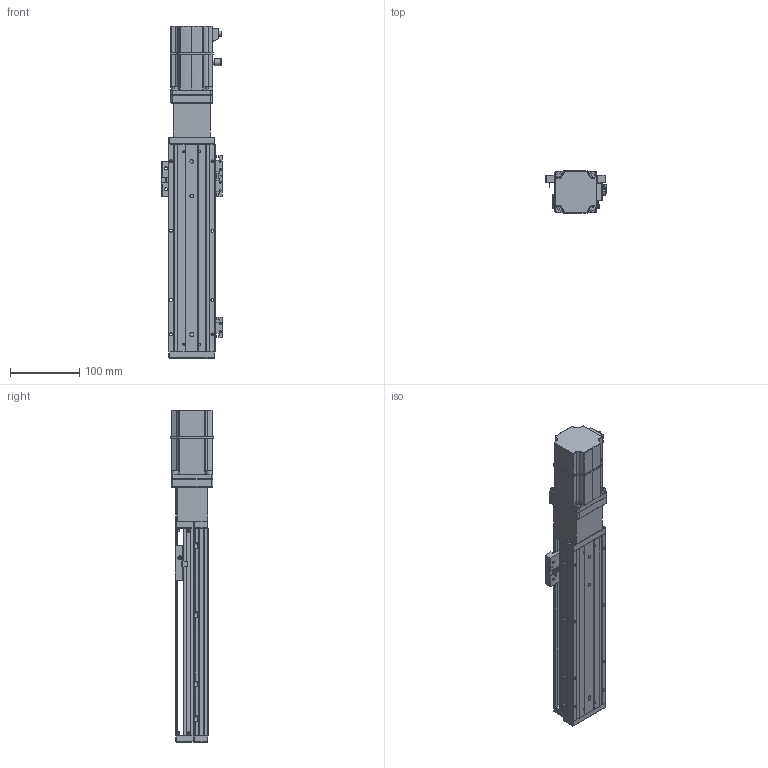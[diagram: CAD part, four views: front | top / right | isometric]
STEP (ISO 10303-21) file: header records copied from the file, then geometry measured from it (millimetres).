
FILE_DESCRIPTION (( 'STEP AP203' ), '1' );
FILE_NAME ('KTHA60-200-BC-M20-C4L.step', '2022-12-16T01:28:20', ( '微软用户' ), ( '微软中国' ), 'SwSTEP 2.0', 'SolidWorks 2020', '' );
FILE_SCHEMA (( 'CONFIG_CONTROL_DESIGN' ));
Length unit declared in the file: millimetre
Products named in the file (18): CTHA60-027; GB¨uT 70.2-M3¡Á5_M3¡Á6; KTHA60-002; GBT 70.3-M3℅6; CTHA60-006-3_M20B; GBT77-2000M3-3; EE_SX911P_R; _X2_4E0983F1_X0_200W_1; GBT 70.1-M3℅6; CTHA60-017; KTHA60-200-BC-M20-C4L; KTHA60-001_300; CTHA60-016; CTHA60-021; KTHA60-004; CTHA60-013; GBT 70.1-M4×16; KTHA60-005
Assembly tree (50 placements, depth 2):
  KTHA60-200-BC-M20-C4L
    KTHA60-001_300
    KTHA60-004
    KTHA60-005
    GB¨uT 70.2-M3¡Á5_M3¡Á6  x6
    GBT 70.3-M3℅6  x6
    EE_SX911P_R  x3
    CTHA60-017  x3
    CTHA60-021  x2
    GBT 70.1-M4×16  x8
    GBT77-2000M3-3  x6
    GBT 70.1-M3℅6  x6
    CTHA60-016  x2
    CTHA60-013
    CTHA60-027
    KTHA60-002
    CTHA60-006-3_M20B
    _X2_4E0983F1_X0_200W_1
Bounding box: 87.72 x 62.42 x 479.7 mm (x, y, z)
Volume: 1038049.5 mm3; surface area: 238371.5 mm2
Topology: 53 solids, 53 shells, 2255 faces, 5315 edges, 3248 vertices
Faces by surface type: plane 1220, cylinder 576, cone 294, torus 80, bspline 69, sphere 16
Entity records: 38893 total; most frequent: CARTESIAN_POINT 7568, DIRECTION 6048, ORIENTED_EDGE 5834, EDGE_CURVE 2917, AXIS2_PLACEMENT_3D 2081, VECTOR 1886, LINE 1886, VERTEX_POINT 1815
